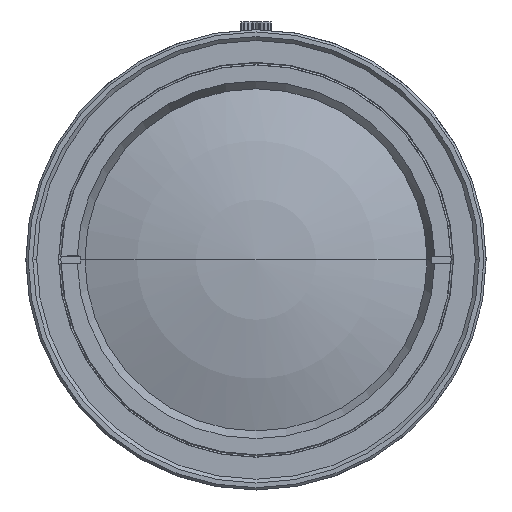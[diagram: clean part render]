
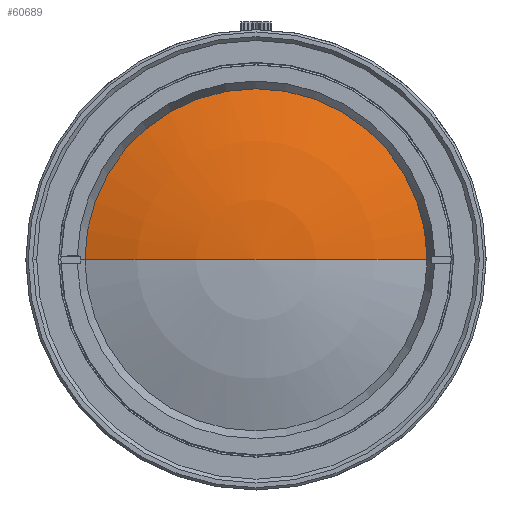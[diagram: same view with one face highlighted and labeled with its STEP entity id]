
A CAD part, left-side view. The second image highlights one B-rep face of the part: STEP entity #60689.
In plain terms, the highlighted spherical face has radius 67.3 mm.
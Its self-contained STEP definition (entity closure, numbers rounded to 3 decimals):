
#60568=CARTESIAN_POINT('',(1.911,0.,0.));
#60569=DIRECTION('',(0.,0.,1.));
#60570=DIRECTION('',(-1.,0.,0.));
#60571=AXIS2_PLACEMENT_3D('',#60568,#60569,#60570);
#60578=CARTESIAN_POINT('',(1.911,0.,0.));
#60579=DIRECTION('',(0.,0.,1.));
#60580=DIRECTION('',(-0.94,0.342,0.));
#60581=AXIS2_PLACEMENT_3D('',#60578,#60579,#60580);
#60583=CARTESIAN_POINT('',(-61.337,0.,0.));
#60584=DIRECTION('',(1.,0.,0.));
#60585=DIRECTION('',(0.,1.,0.));
#60586=AXIS2_PLACEMENT_3D('',#60583,#60584,#60585);
#60644=CARTESIAN_POINT('',(-65.389,0.,0.));
#60645=CARTESIAN_POINT('',(-61.337,-23.,0.));
#60646=VERTEX_POINT('',#60644);
#60647=VERTEX_POINT('',#60645);
#60648=CARTESIAN_POINT('',(-61.337,23.,0.));
#60649=VERTEX_POINT('',#60648);
#60678=CARTESIAN_POINT('',(1.911,0.,0.));
#60679=DIRECTION('',(1.,0.,0.));
#60680=DIRECTION('',(0.,-1.,0.));
#60681=AXIS2_PLACEMENT_3D('',#60678,#60679,#60680);
#60682=SPHERICAL_SURFACE('',#60681,67.3);
#60683=ORIENTED_EDGE('',*,*,#60669,.F.);
#60684=ORIENTED_EDGE('',*,*,#60673,.F.);
#60686=ORIENTED_EDGE('',*,*,#60685,.T.);
#60687=EDGE_LOOP('',(#60683,#60684,#60686));
#60688=FACE_OUTER_BOUND('',#60687,.F.);
#60689=ADVANCED_FACE('',(#60688),#60682,.T.);
#60572=CIRCLE('',#60571,67.3);
#60582=CIRCLE('',#60581,67.3);
#60587=CIRCLE('',#60586,23.);
#60669=EDGE_CURVE('',#60646,#60647,#60572,.T.);
#60673=EDGE_CURVE('',#60649,#60646,#60582,.T.);
#60685=EDGE_CURVE('',#60649,#60647,#60587,.T.);
